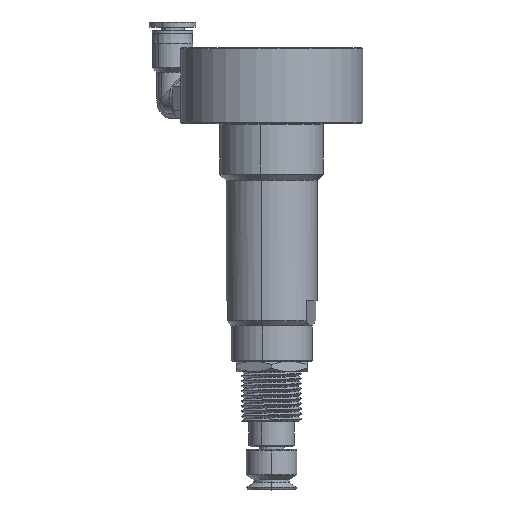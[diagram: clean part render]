
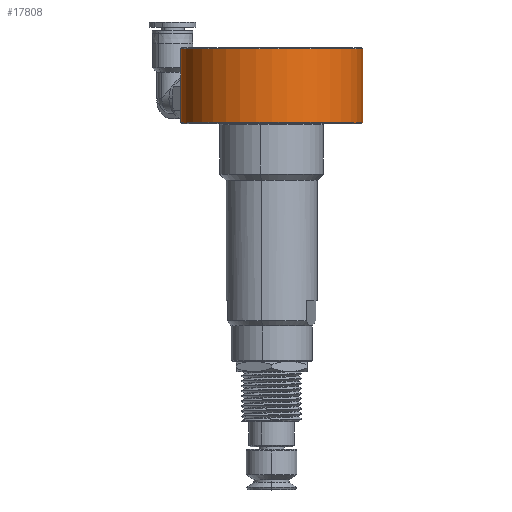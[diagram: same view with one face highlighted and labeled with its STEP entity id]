
A CAD part, top view. The second image highlights one B-rep face of the part: STEP entity #17808.
In plain terms, the highlighted cylindrical face has radius 18 mm (diameter 36 mm), a partial arc.
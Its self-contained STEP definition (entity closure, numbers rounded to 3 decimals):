
#347 = CARTESIAN_POINT ( 'NONE',  ( 4.012, -56.805, 0. ) ) ;
#674 = EDGE_CURVE ( 'NONE', #6754, #11928, #11651, .T. ) ;
#2606 = ORIENTED_EDGE ( 'NONE', *, *, #3899, .F. ) ;
#2691 = ORIENTED_EDGE ( 'NONE', *, *, #674, .T. ) ;
#2726 = CARTESIAN_POINT ( 'NONE',  ( 4.012, -57.005, 0. ) ) ;
#3232 = CARTESIAN_POINT ( 'NONE',  ( 40.012, -56.805, 0. ) ) ;
#3321 = EDGE_CURVE ( 'NONE', #9767, #6754, #20925, .T. ) ;
#3899 = EDGE_CURVE ( 'NONE', #9767, #8752, #11093, .T. ) ;
#5823 = DIRECTION ( 'NONE',  ( 0., 1., 0. ) ) ;
#6207 = DIRECTION ( 'NONE',  ( 0., 1., 0. ) ) ;
#6486 = VECTOR ( 'NONE', #5823, 1000. ) ;
#6754 = VERTEX_POINT ( 'NONE', #22136 ) ;
#6863 = CIRCLE ( 'NONE', #16630, 18. ) ;
#7996 = CARTESIAN_POINT ( 'NONE',  ( 22.012, -57.005, 0. ) ) ;
#8752 = VERTEX_POINT ( 'NONE', #2726 ) ;
#9173 = CARTESIAN_POINT ( 'NONE',  ( 22.012, -71.605, 0. ) ) ;
#9767 = VERTEX_POINT ( 'NONE', #9813 ) ;
#9813 = CARTESIAN_POINT ( 'NONE',  ( 4.012, -71.605, 0. ) ) ;
#10296 = DIRECTION ( 'NONE',  ( 0., 1., 0. ) ) ;
#11093 = LINE ( 'NONE', #347, #6486 ) ;
#11176 = CYLINDRICAL_SURFACE ( 'NONE', #16334, 18. ) ;
#11404 = ORIENTED_EDGE ( 'NONE', *, *, #3321, .T. ) ;
#11651 = LINE ( 'NONE', #3232, #21221 ) ;
#11928 = VERTEX_POINT ( 'NONE', #15078 ) ;
#13086 = ORIENTED_EDGE ( 'NONE', *, *, #18317, .T. ) ;
#13397 = CARTESIAN_POINT ( 'NONE',  ( 22.012, -56.805, 0. ) ) ;
#15078 = CARTESIAN_POINT ( 'NONE',  ( 40.012, -57.005, 0. ) ) ;
#16334 = AXIS2_PLACEMENT_3D ( 'NONE', #13397, #6207, #22113 ) ;
#16486 = DIRECTION ( 'NONE',  ( 0., -1., 0. ) ) ;
#16630 = AXIS2_PLACEMENT_3D ( 'NONE', #7996, #16486, #16642 ) ;
#16642 = DIRECTION ( 'NONE',  ( 1., 0., 0. ) ) ;
#17808 = ADVANCED_FACE ( 'NONE', ( #20995 ), #11176, .T. ) ;
#17847 = DIRECTION ( 'NONE',  ( 0., 1., 0. ) ) ;
#17929 = DIRECTION ( 'NONE',  ( -1., 0., 0. ) ) ;
#18317 = EDGE_CURVE ( 'NONE', #11928, #8752, #6863, .T. ) ;
#19772 = AXIS2_PLACEMENT_3D ( 'NONE', #9173, #17847, #17929 ) ;
#20417 = EDGE_LOOP ( 'NONE', ( #11404, #2691, #13086, #2606 ) ) ;
#20925 = CIRCLE ( 'NONE', #19772, 18. ) ;
#20995 = FACE_OUTER_BOUND ( 'NONE', #20417, .T. ) ;
#21221 = VECTOR ( 'NONE', #10296, 1000. ) ;
#22113 = DIRECTION ( 'NONE',  ( -1., 0., 0. ) ) ;
#22136 = CARTESIAN_POINT ( 'NONE',  ( 40.012, -71.605, 0. ) ) ;
